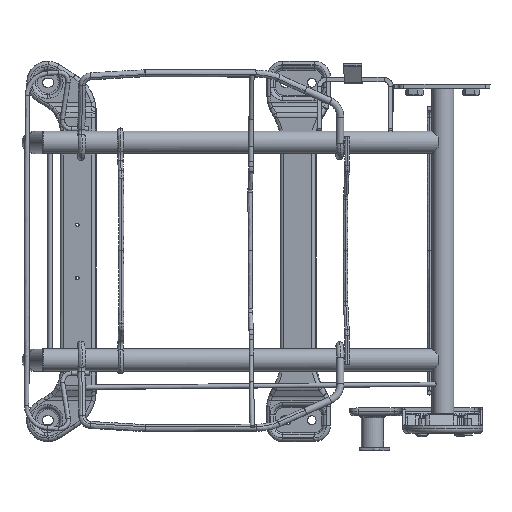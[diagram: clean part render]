
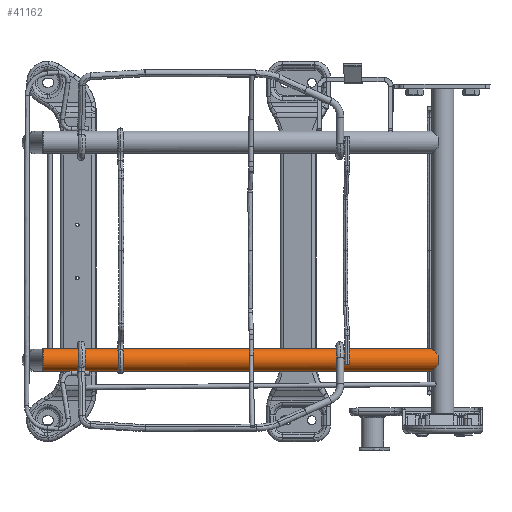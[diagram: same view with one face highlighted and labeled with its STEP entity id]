
A CAD part, top view. The second image highlights one B-rep face of the part: STEP entity #41162.
In plain terms, the highlighted cylindrical face has radius 12.5 mm (diameter 25 mm), a partial arc.
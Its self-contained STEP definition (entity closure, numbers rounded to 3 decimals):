
#41051=AXIS2_PLACEMENT_3D('Circle Axis2P3D',#41049,#41050,$) ;
#41089=AXIS2_PLACEMENT_3D('Cylinder Axis2P3D',#41086,#41087,#41088) ;
#41116=AXIS2_PLACEMENT_3D('Circle Axis2P3D',#41114,#41115,$) ;
#41049=CARTESIAN_POINT('Axis2P3D Location',(505.797,988.656,309.422)) ;
#41053=CARTESIAN_POINT('Vertex',(505.786,1001.156,309.422)) ;
#41055=CARTESIAN_POINT('Vertex',(505.807,976.156,309.422)) ;
#41086=CARTESIAN_POINT('Axis2P3D Location',(728.276,988.841,312.468)) ;
#41092=CARTESIAN_POINT('Control Point',(943.696,976.526,315.8)) ;
#41093=CARTESIAN_POINT('Control Point',(943.694,976.522,315.672)) ;
#41094=CARTESIAN_POINT('Control Point',(943.694,976.52,315.545)) ;
#41095=CARTESIAN_POINT('Control Point',(943.696,976.52,315.418)) ;
#41096=CARTESIAN_POINT('Vertex',(943.696,976.526,315.8)) ;
#41098=CARTESIAN_POINT('Vertex',(943.696,976.52,315.418)) ;
#41102=CARTESIAN_POINT('Control Point',(950.605,983.596,326.772)) ;
#41103=CARTESIAN_POINT('Control Point',(949.422,982.403,326.181)) ;
#41104=CARTESIAN_POINT('Control Point',(948.283,981.252,325.416)) ;
#41105=CARTESIAN_POINT('Control Point',(947.205,980.158,324.463)) ;
#41106=CARTESIAN_POINT('Control Point',(945.493,978.416,322.425)) ;
#41107=CARTESIAN_POINT('Control Point',(944.308,977.193,319.761)) ;
#41108=CARTESIAN_POINT('Control Point',(943.924,976.791,318.493)) ;
#41109=CARTESIAN_POINT('Control Point',(943.719,976.567,317.151)) ;
#41110=CARTESIAN_POINT('Control Point',(943.696,976.526,315.8)) ;
#41111=CARTESIAN_POINT('Vertex',(950.605,983.596,326.772)) ;
#41114=CARTESIAN_POINT('Axis2P3D Location',(950.755,989.026,315.514)) ;
#41118=CARTESIAN_POINT('Vertex',(950.596,994.455,326.772)) ;
#41122=CARTESIAN_POINT('Control Point',(950.596,994.455,326.772)) ;
#41123=CARTESIAN_POINT('Control Point',(949.411,995.647,326.181)) ;
#41124=CARTESIAN_POINT('Control Point',(948.27,996.796,325.416)) ;
#41125=CARTESIAN_POINT('Control Point',(947.19,997.887,324.463)) ;
#41126=CARTESIAN_POINT('Control Point',(945.475,999.627,322.425)) ;
#41127=CARTESIAN_POINT('Control Point',(944.289,1000.848,319.761)) ;
#41128=CARTESIAN_POINT('Control Point',(943.904,1001.249,318.493)) ;
#41129=CARTESIAN_POINT('Control Point',(943.698,1001.473,317.151)) ;
#41130=CARTESIAN_POINT('Control Point',(943.675,1001.514,315.8)) ;
#41131=CARTESIAN_POINT('Vertex',(943.675,1001.514,315.8)) ;
#41135=CARTESIAN_POINT('Control Point',(943.675,1001.514,315.8)) ;
#41136=CARTESIAN_POINT('Control Point',(943.673,1001.518,315.672)) ;
#41137=CARTESIAN_POINT('Control Point',(943.673,1001.52,315.545)) ;
#41138=CARTESIAN_POINT('Control Point',(943.675,1001.52,315.418)) ;
#41139=CARTESIAN_POINT('Vertex',(943.675,1001.52,315.418)) ;
#41142=CARTESIAN_POINT('Line Origine',(728.265,1001.341,312.468)) ;
#41147=CARTESIAN_POINT('Line Origine',(728.286,976.341,312.468)) ;
#41050=DIRECTION('Axis2P3D Direction',(1.,0.001,0.014)) ;
#41087=DIRECTION('Axis2P3D Direction',(1.,0.001,0.014)) ;
#41088=DIRECTION('Axis2P3D XDirection',(-0.001,1.,0.)) ;
#41115=DIRECTION('Axis2P3D Direction',(1.,0.001,0.014)) ;
#41143=DIRECTION('Vector Direction',(1.,0.001,0.014)) ;
#41148=DIRECTION('Vector Direction',(1.,0.001,0.014)) ;
#41144=VECTOR('Line Direction',#41143,1.) ;
#41149=VECTOR('Line Direction',#41148,1.) ;
#41153=ORIENTED_EDGE('',*,*,#41100,.F.) ;
#41154=ORIENTED_EDGE('',*,*,#41113,.F.) ;
#41155=ORIENTED_EDGE('',*,*,#41120,.F.) ;
#41156=ORIENTED_EDGE('',*,*,#41133,.T.) ;
#41157=ORIENTED_EDGE('',*,*,#41141,.T.) ;
#41158=ORIENTED_EDGE('',*,*,#41146,.F.) ;
#41159=ORIENTED_EDGE('',*,*,#41057,.T.) ;
#41160=ORIENTED_EDGE('',*,*,#41151,.T.) ;
#41162=ADVANCED_FACE('\X2\96F64EF651E04F554F53\X0\',(#41161),#41090,.T.) ;
#41091=B_SPLINE_CURVE_WITH_KNOTS('',3,(#41092,#41093,#41094,#41095),.UNSPECIFIED.,.F.,.U.,(4,4),(0.,0.54),.UNSPECIFIED.) ;
#41101=B_SPLINE_CURVE_WITH_KNOTS('',5,(#41102,#41103,#41104,#41105,#41106,#41107,#41108,#41109,#41110),.UNSPECIFIED.,.F.,.U.,(6,3,6),(0.,12.649,22.249),.UNSPECIFIED.) ;
#41121=B_SPLINE_CURVE_WITH_KNOTS('',5,(#41122,#41123,#41124,#41125,#41126,#41127,#41128,#41129,#41130),.UNSPECIFIED.,.F.,.U.,(6,3,6),(0.,12.649,22.249),.UNSPECIFIED.) ;
#41134=B_SPLINE_CURVE_WITH_KNOTS('',3,(#41135,#41136,#41137,#41138),.UNSPECIFIED.,.F.,.U.,(4,4),(0.,0.54),.UNSPECIFIED.) ;
#41052=CIRCLE('generated circle',#41051,12.5) ;
#41117=CIRCLE('generated circle',#41116,12.5) ;
#41090=CYLINDRICAL_SURFACE('generated cylinder',#41089,12.5) ;
#41057=EDGE_CURVE('',#41054,#41056,#41052,.T.) ;
#41100=EDGE_CURVE('',#41097,#41099,#41091,.T.) ;
#41113=EDGE_CURVE('',#41112,#41097,#41101,.T.) ;
#41120=EDGE_CURVE('',#41119,#41112,#41117,.T.) ;
#41133=EDGE_CURVE('',#41119,#41132,#41121,.T.) ;
#41141=EDGE_CURVE('',#41132,#41140,#41134,.T.) ;
#41146=EDGE_CURVE('',#41054,#41140,#41145,.T.) ;
#41151=EDGE_CURVE('',#41056,#41099,#41150,.T.) ;
#41152=EDGE_LOOP('',(#41153,#41154,#41155,#41156,#41157,#41158,#41159,#41160)) ;
#41161=FACE_OUTER_BOUND('',#41152,.T.) ;
#41145=LINE('Line',#41142,#41144) ;
#41150=LINE('Line',#41147,#41149) ;
#41054=VERTEX_POINT('',#41053) ;
#41056=VERTEX_POINT('',#41055) ;
#41097=VERTEX_POINT('',#41096) ;
#41099=VERTEX_POINT('',#41098) ;
#41112=VERTEX_POINT('',#41111) ;
#41119=VERTEX_POINT('',#41118) ;
#41132=VERTEX_POINT('',#41131) ;
#41140=VERTEX_POINT('',#41139) ;
